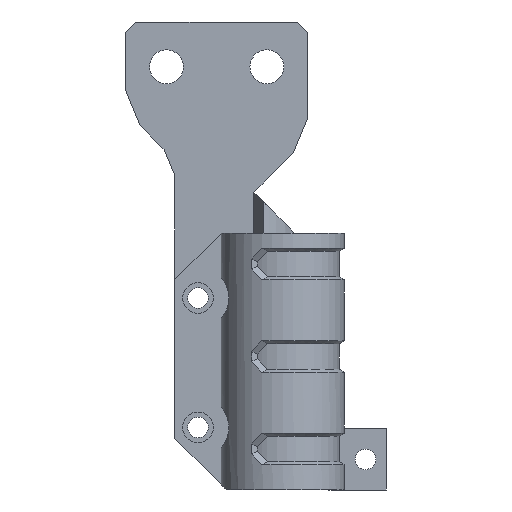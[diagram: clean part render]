
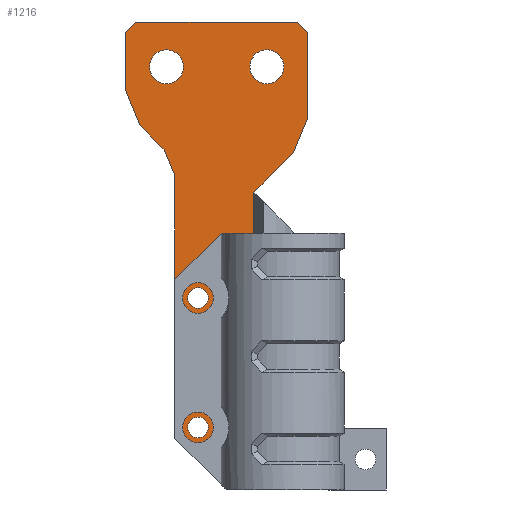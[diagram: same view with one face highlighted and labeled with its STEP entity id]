
A CAD part, left-side view. The second image highlights one B-rep face of the part: STEP entity #1216.
In plain terms, the highlighted planar face has unit normal (-1, 0, 0).
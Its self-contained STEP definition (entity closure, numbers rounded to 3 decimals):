
#46=FACE_BOUND('',#191,.T.);
#47=FACE_BOUND('',#192,.T.);
#48=FACE_BOUND('',#193,.T.);
#49=FACE_BOUND('',#194,.T.);
#71=PLANE('',#1325);
#122=FACE_OUTER_BOUND('',#190,.T.);
#190=EDGE_LOOP('',(#992,#993,#994,#995,#996,#997,#998,#999,#1000,#1001,
#1002,#1003,#1004,#1005,#1006));
#191=EDGE_LOOP('',(#1007));
#192=EDGE_LOOP('',(#1008));
#193=EDGE_LOOP('',(#1009));
#194=EDGE_LOOP('',(#1010));
#253=CIRCLE('',#1303,1.);
#255=CIRCLE('',#1306,1.);
#258=CIRCLE('',#1310,1.65);
#260=CIRCLE('',#1313,1.65);
#303=LINE('',#1916,#408);
#310=LINE('',#1931,#415);
#329=LINE('',#1989,#434);
#333=LINE('',#1996,#438);
#334=LINE('',#2000,#439);
#338=LINE('',#2008,#443);
#341=LINE('',#2014,#446);
#342=LINE('',#2016,#447);
#343=LINE('',#2018,#448);
#344=LINE('',#2020,#449);
#345=LINE('',#2022,#450);
#346=LINE('',#2024,#451);
#347=LINE('',#2025,#452);
#348=LINE('',#2026,#453);
#349=LINE('',#2027,#454);
#408=VECTOR('',#1469,1000.);
#415=VECTOR('',#1480,1000.);
#434=VECTOR('',#1539,10.);
#438=VECTOR('',#1545,10.);
#439=VECTOR('',#1548,10.);
#443=VECTOR('',#1554,10.);
#446=VECTOR('',#1559,10.);
#447=VECTOR('',#1560,10.);
#448=VECTOR('',#1561,10.);
#449=VECTOR('',#1562,10.);
#450=VECTOR('',#1563,10.);
#451=VECTOR('',#1564,10.);
#452=VECTOR('',#1565,10.);
#453=VECTOR('',#1566,1000.);
#454=VECTOR('',#1567,10.);
#563=VERTEX_POINT('',#1914);
#564=VERTEX_POINT('',#1915);
#570=VERTEX_POINT('',#1930);
#572=VERTEX_POINT('',#1936);
#574=VERTEX_POINT('',#1942);
#577=VERTEX_POINT('',#1950);
#579=VERTEX_POINT('',#1956);
#588=VERTEX_POINT('',#1986);
#589=VERTEX_POINT('',#1988);
#591=VERTEX_POINT('',#1994);
#592=VERTEX_POINT('',#1998);
#593=VERTEX_POINT('',#1999);
#596=VERTEX_POINT('',#2007);
#598=VERTEX_POINT('',#2013);
#599=VERTEX_POINT('',#2015);
#600=VERTEX_POINT('',#2017);
#601=VERTEX_POINT('',#2019);
#602=VERTEX_POINT('',#2021);
#603=VERTEX_POINT('',#2023);
#701=EDGE_CURVE('',#563,#564,#303,.T.);
#709=EDGE_CURVE('',#570,#564,#310,.T.);
#712=EDGE_CURVE('',#572,#572,#253,.T.);
#715=EDGE_CURVE('',#574,#574,#255,.T.);
#720=EDGE_CURVE('',#577,#577,#258,.T.);
#723=EDGE_CURVE('',#579,#579,#260,.T.);
#738=EDGE_CURVE('',#588,#589,#329,.T.);
#742=EDGE_CURVE('',#591,#588,#333,.T.);
#743=EDGE_CURVE('',#592,#593,#334,.T.);
#747=EDGE_CURVE('',#593,#596,#338,.T.);
#750=EDGE_CURVE('',#598,#592,#341,.T.);
#751=EDGE_CURVE('',#599,#598,#342,.T.);
#752=EDGE_CURVE('',#599,#600,#343,.T.);
#753=EDGE_CURVE('',#601,#600,#344,.T.);
#754=EDGE_CURVE('',#601,#602,#345,.T.);
#755=EDGE_CURVE('',#603,#602,#346,.T.);
#756=EDGE_CURVE('',#589,#603,#347,.T.);
#757=EDGE_CURVE('',#591,#563,#348,.F.);
#758=EDGE_CURVE('',#570,#596,#349,.T.);
#992=ORIENTED_EDGE('',*,*,#743,.F.);
#993=ORIENTED_EDGE('',*,*,#750,.F.);
#994=ORIENTED_EDGE('',*,*,#751,.F.);
#995=ORIENTED_EDGE('',*,*,#752,.T.);
#996=ORIENTED_EDGE('',*,*,#753,.F.);
#997=ORIENTED_EDGE('',*,*,#754,.T.);
#998=ORIENTED_EDGE('',*,*,#755,.F.);
#999=ORIENTED_EDGE('',*,*,#756,.F.);
#1000=ORIENTED_EDGE('',*,*,#738,.F.);
#1001=ORIENTED_EDGE('',*,*,#742,.F.);
#1002=ORIENTED_EDGE('',*,*,#757,.T.);
#1003=ORIENTED_EDGE('',*,*,#701,.T.);
#1004=ORIENTED_EDGE('',*,*,#709,.F.);
#1005=ORIENTED_EDGE('',*,*,#758,.T.);
#1006=ORIENTED_EDGE('',*,*,#747,.F.);
#1007=ORIENTED_EDGE('',*,*,#712,.T.);
#1008=ORIENTED_EDGE('',*,*,#715,.T.);
#1009=ORIENTED_EDGE('',*,*,#720,.T.);
#1010=ORIENTED_EDGE('',*,*,#723,.T.);
#1216=ADVANCED_FACE('',(#122,#46,#47,#48,#49),#71,.F.);
#1303=AXIS2_PLACEMENT_3D('',#1937,#1485,#1486);
#1306=AXIS2_PLACEMENT_3D('',#1943,#1492,#1493);
#1310=AXIS2_PLACEMENT_3D('',#1952,#1502,#1503);
#1313=AXIS2_PLACEMENT_3D('',#1958,#1509,#1510);
#1325=AXIS2_PLACEMENT_3D('',#2012,#1557,#1558);
#1469=DIRECTION('',(0.,-1.,0.));
#1480=DIRECTION('',(0.,0.,-1.));
#1485=DIRECTION('center_axis',(1.,0.,0.));
#1486=DIRECTION('ref_axis',(0.,1.,0.));
#1492=DIRECTION('center_axis',(1.,0.,0.));
#1493=DIRECTION('ref_axis',(0.,1.,0.));
#1502=DIRECTION('center_axis',(1.,0.,0.));
#1503=DIRECTION('ref_axis',(0.,1.,0.));
#1509=DIRECTION('center_axis',(1.,0.,0.));
#1510=DIRECTION('ref_axis',(0.,1.,0.));
#1539=DIRECTION('',(0.,0.383,0.924));
#1545=DIRECTION('',(0.,0.,1.));
#1548=DIRECTION('',(0.,0.383,-0.924));
#1554=DIRECTION('',(0.,0.707,-0.707));
#1557=DIRECTION('center_axis',(1.,0.,0.));
#1558=DIRECTION('ref_axis',(0.,1.,0.));
#1559=DIRECTION('',(0.,0.,-1.));
#1560=DIRECTION('',(0.,-0.707,-0.707));
#1561=DIRECTION('',(0.,1.,0.));
#1562=DIRECTION('',(0.,-0.707,0.707));
#1563=DIRECTION('',(0.,0.,-1.));
#1564=DIRECTION('',(0.,0.383,0.924));
#1565=DIRECTION('',(0.,0.707,0.707));
#1566=DIRECTION('',(0.,0.707,0.707));
#1567=DIRECTION('',(0.,-1.,0.));
#1914=CARTESIAN_POINT('',(5.3,5.5,0.));
#1915=CARTESIAN_POINT('',(5.3,2.812,0.));
#1916=CARTESIAN_POINT('',(5.3,6.656,0.));
#1930=CARTESIAN_POINT('',(5.3,2.812,29.));
#1931=CARTESIAN_POINT('',(5.3,2.812,30.));
#1936=CARTESIAN_POINT('',(5.3,7.25,18.691));
#1937=CARTESIAN_POINT('Origin',(5.3,8.25,18.691));
#1942=CARTESIAN_POINT('',(5.3,7.25,6.092));
#1943=CARTESIAN_POINT('Origin',(5.3,8.25,6.092));
#1950=CARTESIAN_POINT('',(5.3,-0.101,41.2));
#1952=CARTESIAN_POINT('Origin',(5.3,1.549,41.2));
#1956=CARTESIAN_POINT('',(5.3,9.669,41.2));
#1958=CARTESIAN_POINT('Origin',(5.3,11.319,41.2));
#1986=CARTESIAN_POINT('',(5.3,10.5,30.586));
#1988=CARTESIAN_POINT('',(5.3,11.561,33.146));
#1989=CARTESIAN_POINT('',(5.3,10.38,30.296));
#1994=CARTESIAN_POINT('',(5.3,10.5,5.));
#1996=CARTESIAN_POINT('',(5.3,10.5,29.));
#1998=CARTESIAN_POINT('',(5.3,-2.452,36.26));
#1999=CARTESIAN_POINT('',(5.3,-1.037,32.846));
#2000=CARTESIAN_POINT('',(5.3,-0.324,31.125));
#2007=CARTESIAN_POINT('',(5.3,2.808,29.));
#2008=CARTESIAN_POINT('',(5.3,2.205,29.603));
#2012=CARTESIAN_POINT('Origin',(5.3,6.656,30.));
#2013=CARTESIAN_POINT('',(5.3,-2.452,44.562));
#2014=CARTESIAN_POINT('',(5.3,-2.452,29.));
#2015=CARTESIAN_POINT('',(5.3,-1.452,45.562));
#2016=CARTESIAN_POINT('',(5.3,-3.565,43.449));
#2017=CARTESIAN_POINT('',(5.3,14.319,45.562));
#2018=CARTESIAN_POINT('',(5.3,10.5,45.562));
#2019=CARTESIAN_POINT('',(5.3,15.3,44.582));
#2020=CARTESIAN_POINT('',(5.3,16.544,43.338));
#2021=CARTESIAN_POINT('',(5.3,15.3,38.886));
#2022=CARTESIAN_POINT('',(5.3,15.3,33.443));
#2023=CARTESIAN_POINT('',(5.3,13.886,35.471));
#2024=CARTESIAN_POINT('',(5.3,12.743,32.712));
#2025=CARTESIAN_POINT('',(5.3,10.218,31.803));
#2026=CARTESIAN_POINT('',(5.3,10.5,5.));
#2027=CARTESIAN_POINT('',(5.3,2.812,29.));
